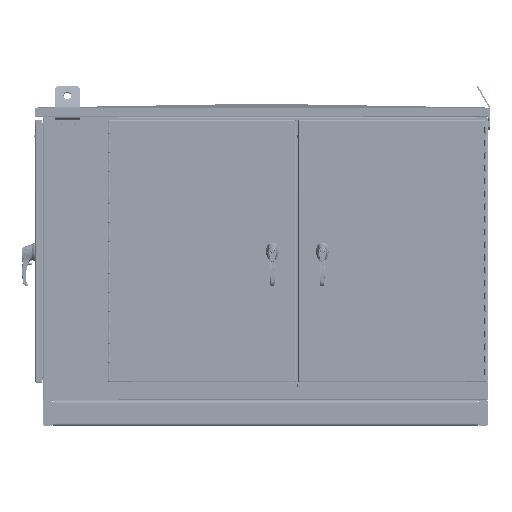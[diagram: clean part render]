
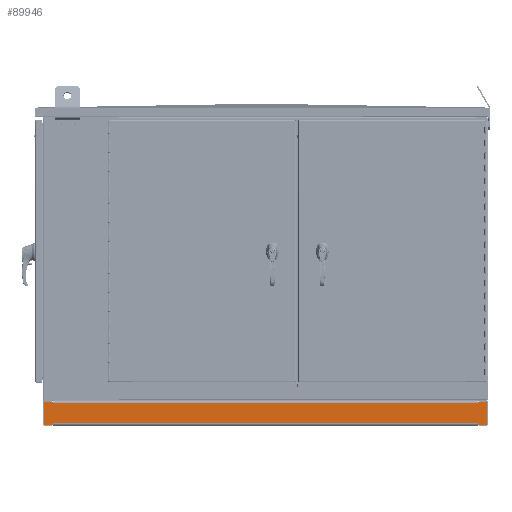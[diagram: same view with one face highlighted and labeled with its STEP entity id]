
A CAD part, top view. The second image highlights one B-rep face of the part: STEP entity #89946.
In plain terms, the highlighted planar face has unit normal (0, 0, 1).
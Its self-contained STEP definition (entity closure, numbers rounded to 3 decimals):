
#41261 = VERTEX_POINT ( 'NONE', #198329 ) ;
#41265 = VERTEX_POINT ( 'NONE', #198354 ) ;
#41273 = VERTEX_POINT ( 'NONE', #198342 ) ;
#41279 = VERTEX_POINT ( 'NONE', #198400 ) ;
#41282 = VERTEX_POINT ( 'NONE', #198448 ) ;
#41285 = VERTEX_POINT ( 'NONE', #198441 ) ;
#41289 = VERTEX_POINT ( 'NONE', #198479 ) ;
#41293 = VERTEX_POINT ( 'NONE', #198497 ) ;
#41295 = VERTEX_POINT ( 'NONE', #198521 ) ;
#41298 = VERTEX_POINT ( 'NONE', #198529 ) ;
#41302 = VERTEX_POINT ( 'NONE', #198548 ) ;
#41306 = VERTEX_POINT ( 'NONE', #198573 ) ;
#50033 = EDGE_CURVE ( 'NONE', #41265, #41261, #273257, .T. ) ;
#50061 = EDGE_CURVE ( 'NONE', #41265, #41279, #273360, .T. ) ;
#50072 = EDGE_CURVE ( 'NONE', #41273, #41261, #273375, .T. ) ;
#50083 = EDGE_CURVE ( 'NONE', #41289, #41285, #273411, .T. ) ;
#50086 = EDGE_CURVE ( 'NONE', #41279, #41282, #273441, .T. ) ;
#50090 = EDGE_CURVE ( 'NONE', #41285, #41282, #273460, .T. ) ;
#50093 = EDGE_CURVE ( 'NONE', #41289, #41293, #273464, .T. ) ;
#50097 = EDGE_CURVE ( 'NONE', #41295, #41293, #273472, .T. ) ;
#50100 = EDGE_CURVE ( 'NONE', #41298, #41295, #273494, .T. ) ;
#50104 = EDGE_CURVE ( 'NONE', #41298, #41302, #273522, .T. ) ;
#50108 = EDGE_CURVE ( 'NONE', #41306, #41302, #273517, .T. ) ;
#50111 = EDGE_CURVE ( 'NONE', #41306, #41273, #273525, .T. ) ;
#58290 = ORIENTED_EDGE ( 'NONE', *, *, #50033, .F. ) ;
#58294 = ORIENTED_EDGE ( 'NONE', *, *, #50061, .T. ) ;
#58297 = ORIENTED_EDGE ( 'NONE', *, *, #50086, .T. ) ;
#58302 = ORIENTED_EDGE ( 'NONE', *, *, #50090, .F. ) ;
#58305 = ORIENTED_EDGE ( 'NONE', *, *, #50083, .F. ) ;
#58309 = ORIENTED_EDGE ( 'NONE', *, *, #50093, .T. ) ;
#58313 = ORIENTED_EDGE ( 'NONE', *, *, #50097, .F. ) ;
#58315 = ORIENTED_EDGE ( 'NONE', *, *, #50100, .F. ) ;
#58319 = ORIENTED_EDGE ( 'NONE', *, *, #50104, .T. ) ;
#58321 = ORIENTED_EDGE ( 'NONE', *, *, #50108, .F. ) ;
#58325 = ORIENTED_EDGE ( 'NONE', *, *, #50111, .T. ) ;
#58330 = ORIENTED_EDGE ( 'NONE', *, *, #50072, .T. ) ;
#89946 = ADVANCED_FACE ( 'NONE', ( #380680 ), #378380, .F. ) ;
#159944 = EDGE_LOOP ( 'NONE', ( #58290, #58294, #58297, #58302, #58305, #58309, #58313, #58315, #58319, #58321, #58325, #58330 ) ) ;
#198329 = CARTESIAN_POINT ( 'NONE',  ( 33.437, 1.812, 0.188 ) ) ;
#198342 = CARTESIAN_POINT ( 'NONE',  ( 34.812, 1.812, 0.188 ) ) ;
#198354 = CARTESIAN_POINT ( 'NONE',  ( 33.437, 1.592, 0.188 ) ) ;
#198400 = CARTESIAN_POINT ( 'NONE',  ( -33.437, 1.592, 0.188 ) ) ;
#198441 = CARTESIAN_POINT ( 'NONE',  ( -34.812, 1.812, 0.188 ) ) ;
#198448 = CARTESIAN_POINT ( 'NONE',  ( -33.437, 1.812, 0.188 ) ) ;
#198479 = CARTESIAN_POINT ( 'NONE',  ( -34.812, -1.812, 0.188 ) ) ;
#198497 = CARTESIAN_POINT ( 'NONE',  ( -33.437, -1.812, 0.188 ) ) ;
#198521 = CARTESIAN_POINT ( 'NONE',  ( -33.437, -1.592, 0.188 ) ) ;
#198529 = CARTESIAN_POINT ( 'NONE',  ( 33.437, -1.592, 0.188 ) ) ;
#198548 = CARTESIAN_POINT ( 'NONE',  ( 33.437, -1.812, 0.188 ) ) ;
#198573 = CARTESIAN_POINT ( 'NONE',  ( 34.812, -1.812, 0.188 ) ) ;
#273234 = VECTOR ( 'NONE', #285357, 39.37 ) ;
#273257 = LINE ( 'NONE', #285350, #273234 ) ;
#273326 = VECTOR ( 'NONE', #285609, 39.37 ) ;
#273360 = LINE ( 'NONE', #285602, #273326 ) ;
#273375 = LINE ( 'NONE', #285666, #273401 ) ;
#273401 = VECTOR ( 'NONE', #285696, 39.37 ) ;
#273411 = LINE ( 'NONE', #285792, #273446 ) ;
#273437 = VECTOR ( 'NONE', #285852, 39.37 ) ;
#273441 = LINE ( 'NONE', #285800, #273456 ) ;
#273446 = VECTOR ( 'NONE', #285796, 39.37 ) ;
#273456 = VECTOR ( 'NONE', #285818, 39.37 ) ;
#273460 = LINE ( 'NONE', #285847, #273437 ) ;
#273464 = LINE ( 'NONE', #285855, #273483 ) ;
#273472 = LINE ( 'NONE', #285893, #273498 ) ;
#273483 = VECTOR ( 'NONE', #285868, 39.37 ) ;
#273494 = LINE ( 'NONE', #285899, #273510 ) ;
#273498 = VECTOR ( 'NONE', #285896, 39.37 ) ;
#273507 = VECTOR ( 'NONE', #285940, 39.37 ) ;
#273510 = VECTOR ( 'NONE', #285912, 39.37 ) ;
#273517 = LINE ( 'NONE', #285917, #273537 ) ;
#273522 = LINE ( 'NONE', #285935, #273507 ) ;
#273525 = LINE ( 'NONE', #285981, #273552 ) ;
#273537 = VECTOR ( 'NONE', #285956, 39.37 ) ;
#273552 = VECTOR ( 'NONE', #285984, 39.37 ) ;
#285350 = CARTESIAN_POINT ( 'NONE',  ( 33.437, 1.812, 0.188 ) ) ;
#285357 = DIRECTION ( 'NONE',  ( 0., 1., 0. ) ) ;
#285602 = CARTESIAN_POINT ( 'NONE',  ( 33.437, 1.592, 0.188 ) ) ;
#285609 = DIRECTION ( 'NONE',  ( -1., 0., 0. ) ) ;
#285666 = CARTESIAN_POINT ( 'NONE',  ( 0., 1.812, 0.188 ) ) ;
#285696 = DIRECTION ( 'NONE',  ( -1., 0., 0. ) ) ;
#285792 = CARTESIAN_POINT ( 'NONE',  ( -34.812, 0., 0.188 ) ) ;
#285796 = DIRECTION ( 'NONE',  ( 0., 1., 0. ) ) ;
#285800 = CARTESIAN_POINT ( 'NONE',  ( -33.437, 1.812, 0.188 ) ) ;
#285818 = DIRECTION ( 'NONE',  ( 0., 1., 0. ) ) ;
#285847 = CARTESIAN_POINT ( 'NONE',  ( 0., 1.812, 0.188 ) ) ;
#285852 = DIRECTION ( 'NONE',  ( 1., 0., 0. ) ) ;
#285855 = CARTESIAN_POINT ( 'NONE',  ( 0., -1.812, 0.188 ) ) ;
#285868 = DIRECTION ( 'NONE',  ( 1., 0., 0. ) ) ;
#285893 = CARTESIAN_POINT ( 'NONE',  ( -33.437, -1.812, 0.188 ) ) ;
#285896 = DIRECTION ( 'NONE',  ( 0., -1., 0. ) ) ;
#285899 = CARTESIAN_POINT ( 'NONE',  ( 33.437, -1.592, 0.188 ) ) ;
#285912 = DIRECTION ( 'NONE',  ( -1., 0., 0. ) ) ;
#285917 = CARTESIAN_POINT ( 'NONE',  ( 0., -1.812, 0.188 ) ) ;
#285935 = CARTESIAN_POINT ( 'NONE',  ( 33.437, -1.812, 0.188 ) ) ;
#285940 = DIRECTION ( 'NONE',  ( 0., -1., 0. ) ) ;
#285956 = DIRECTION ( 'NONE',  ( -1., 0., 0. ) ) ;
#285981 = CARTESIAN_POINT ( 'NONE',  ( 34.812, 0., 0.188 ) ) ;
#285984 = DIRECTION ( 'NONE',  ( 0., 1., 0. ) ) ;
#378379 = CARTESIAN_POINT ( 'NONE',  ( 0., 1.812, 0.188 ) ) ;
#378380 = PLANE ( 'NONE',  #383979 ) ;
#378385 = DIRECTION ( 'NONE',  ( 0., 0., -1. ) ) ;
#378387 = DIRECTION ( 'NONE',  ( -1., 0., 0. ) ) ;
#380680 = FACE_OUTER_BOUND ( 'NONE', #159944, .T. ) ;
#383979 = AXIS2_PLACEMENT_3D ( 'NONE', #378379, #378385, #378387 ) ;
